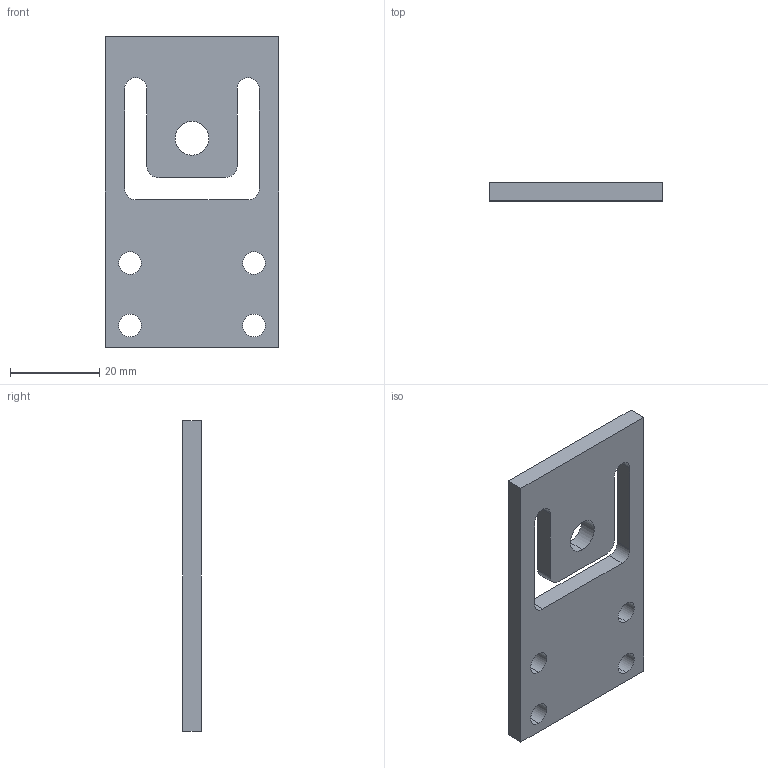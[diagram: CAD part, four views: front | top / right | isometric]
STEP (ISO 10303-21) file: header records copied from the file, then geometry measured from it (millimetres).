
FILE_DESCRIPTION (( 'STEP AP214' ), '1' );
FILE_NAME ('PB15-kg-RH outline.STEP', '2017-08-23T16:56:09', ( '' ), ( '' ), 'SwSTEP 2.0', 'SolidWorks 2017', '' );
FILE_SCHEMA (( 'AUTOMOTIVE_DESIGN' ));
Length unit declared in the file: millimetre
Products named in the file (1): PB15-kg-RH outline
Bounding box: 39 x 4.06 x 69.7 mm (x, y, z)
Volume: 9019 mm3; surface area: 6297.6 mm2
Topology: 1 solids, 1 shells, 30 faces, 84 edges, 56 vertices
Faces by surface type: cylinder 18, plane 12
Entity records: 1372 total; most frequent: DIRECTION 182, CARTESIAN_POINT 171, ORIENTED_EDGE 168, EDGE_CURVE 84, AXIS2_PLACEMENT_3D 67, VERTEX_POINT 56, LINE 48, VECTOR 48
